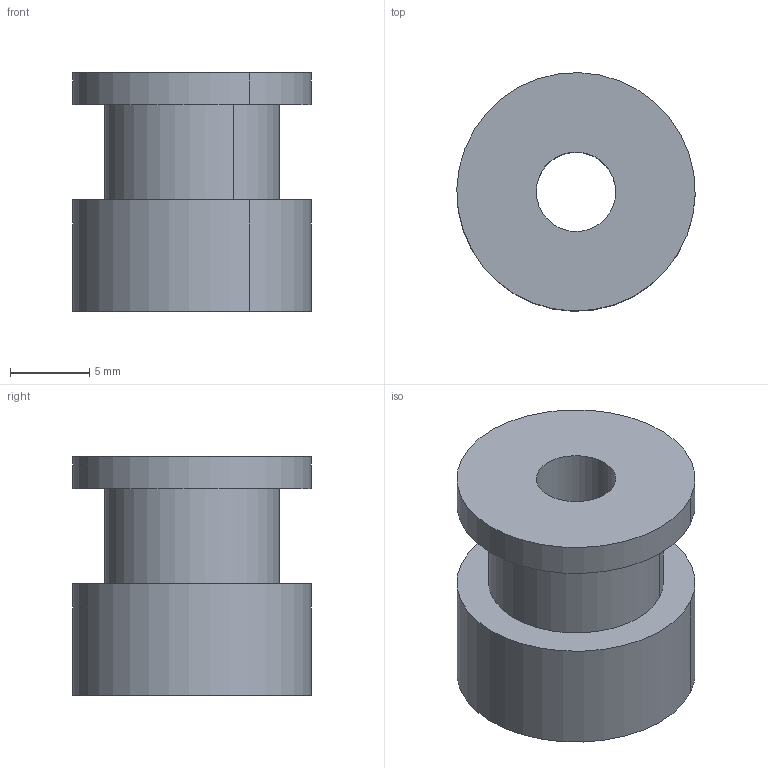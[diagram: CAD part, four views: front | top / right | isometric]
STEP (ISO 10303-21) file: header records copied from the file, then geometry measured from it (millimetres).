
FILE_DESCRIPTION(('CATIA V5 STEP Exchange'),'2;1');
FILE_NAME('C:\Users\user\Documents\Jakob\BAC - Arbeit 1\CAD Modell\CAD-Modell-Step files\Platzhalter\timing pulley.stp','2018-12-13T14:08:13+00:00',('none'),('none'),'Version 5-6 Release 2012','CATIA V5 STEP AP203','none');
FILE_SCHEMA(('CONFIG_CONTROL_DESIGN'));
Length unit declared in the file: millimetre
Products named in the file (1): timing pulley
Bounding box: 15 x 15 x 15 mm (x, y, z)
Volume: 1866.1 mm3; surface area: 1344.6 mm2
Topology: 1 solids, 1 shells, 12 faces, 24 edges, 16 vertices
Faces by surface type: cylinder 8, plane 4
Entity records: 329 total; most frequent: CARTESIAN_POINT 48, ORIENTED_EDGE 48, DIRECTION 38, AXIS2_PLACEMENT_3D 24, EDGE_CURVE 24, CIRCLE 16, EDGE_LOOP 16, VERTEX_POINT 16
